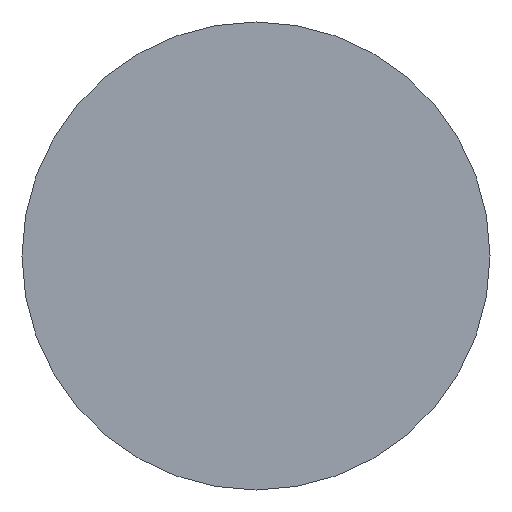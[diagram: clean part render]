
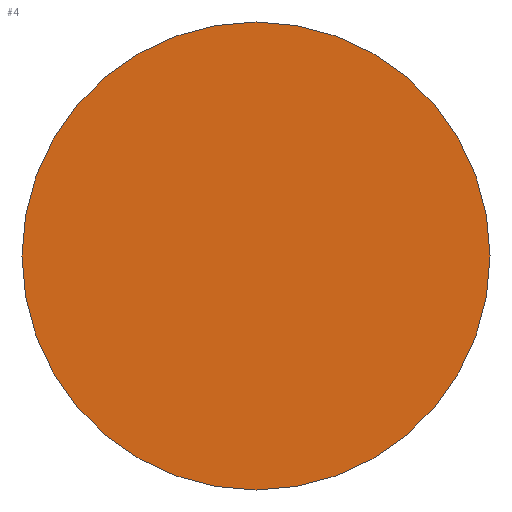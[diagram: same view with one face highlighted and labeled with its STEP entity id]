
A CAD part, left-side view. The second image highlights one B-rep face of the part: STEP entity #4.
In plain terms, the highlighted planar face has unit normal (-1, 0, 0).
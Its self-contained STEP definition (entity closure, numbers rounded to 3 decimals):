
#4 = ADVANCED_FACE ( 'NONE', ( #215 ), #173, .T. ) ;
#24 = DIRECTION ( 'NONE',  ( 0., 1., 0. ) ) ;
#36 = VERTEX_POINT ( 'NONE', #267 ) ;
#52 = DIRECTION ( 'NONE',  ( 0., -1., 0. ) ) ;
#65 = AXIS2_PLACEMENT_3D ( 'NONE', #218, #260, #231 ) ;
#68 = EDGE_LOOP ( 'NONE', ( #183, #198 ) ) ;
#81 = CIRCLE ( 'NONE', #65, 11. ) ;
#121 = AXIS2_PLACEMENT_3D ( 'NONE', #204, #228, #52 ) ;
#140 = VERTEX_POINT ( 'NONE', #157 ) ;
#152 = DIRECTION ( 'NONE',  ( 1., 0., 0. ) ) ;
#157 = CARTESIAN_POINT ( 'NONE',  ( 0., 11., 0. ) ) ;
#173 = PLANE ( 'NONE',  #121 ) ;
#183 = ORIENTED_EDGE ( 'NONE', *, *, #185, .F. ) ;
#185 = EDGE_CURVE ( 'NONE', #140, #36, #264, .T. ) ;
#198 = ORIENTED_EDGE ( 'NONE', *, *, #243, .F. ) ;
#204 = CARTESIAN_POINT ( 'NONE',  ( 0., 0., 0. ) ) ;
#212 = CARTESIAN_POINT ( 'NONE',  ( 0., 0., 0. ) ) ;
#215 = FACE_OUTER_BOUND ( 'NONE', #68, .T. ) ;
#218 = CARTESIAN_POINT ( 'NONE',  ( 0., 0., 0. ) ) ;
#228 = DIRECTION ( 'NONE',  ( -1., 0., 0. ) ) ;
#231 = DIRECTION ( 'NONE',  ( 0., 1., 0. ) ) ;
#243 = EDGE_CURVE ( 'NONE', #36, #140, #81, .T. ) ;
#260 = DIRECTION ( 'NONE',  ( 1., 0., 0. ) ) ;
#264 = CIRCLE ( 'NONE', #272, 11. ) ;
#267 = CARTESIAN_POINT ( 'NONE',  ( 0., -11., 0. ) ) ;
#272 = AXIS2_PLACEMENT_3D ( 'NONE', #212, #152, #24 ) ;
